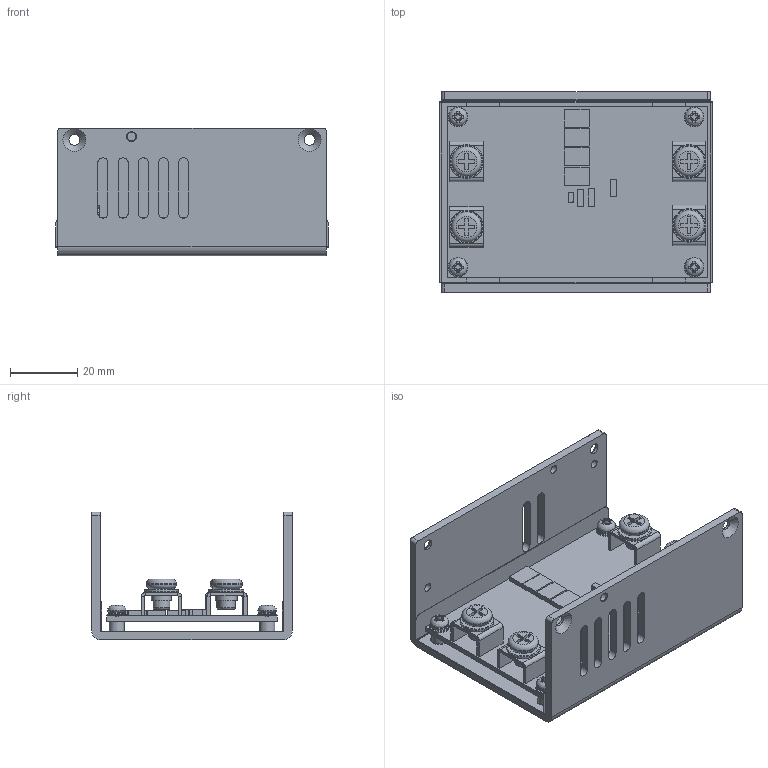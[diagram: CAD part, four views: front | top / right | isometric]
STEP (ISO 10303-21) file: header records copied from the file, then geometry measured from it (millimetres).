
FILE_DESCRIPTION(/* description */ (''),/* implementation_level */ '2;1');
FILE_NAME(/* name */ 'D:\Inventor\AQF1000 - ORING\ORING.stp',/* time_stamp */ '2024-03-25T15:13:12+08:00',/* author */ ('peter'),/* organization */ (''),/* preprocessor_version */ 'ST-DEVELOPER v15.2',/* originating_system */ 'Autodesk Inventor 2014',/* authorisation */ '');
FILE_SCHEMA (('AUTOMOTIVE_DESIGN { 1 0 10303 214 3 1 1 }'));
Length unit declared in the file: millimetre
Products named in the file (10): BOT CASE; M3 x 5R5 mm; MYLAR - BOT CASE; PCB; PCB-50_M5; SCREW CH_W  M5_8mm; SCREW CH_W  M3_6mm; ORING
Bounding box: 81 x 59.7 x 38 mm (x, y, z)
Volume: 34527 mm3; surface area: 47654.1 mm2
Topology: 35 solids, 35 shells, 647 faces, 2607 edges, 3165 vertices
Faces by surface type: plane 426, cylinder 122, cone 51, torus 44, bspline 4
Full cylindrical faces by diameter (mm): 2.459 x16, 3 x4, 3.1 x4, 3.2 x8, 4 x4, 4.134 x4, 4.5 x4, 5 x8, 5.8 x4, 6 x4, 9 x4, 10 x4
Entity records: 17516 total; most frequent: CARTESIAN_POINT 5013, DIRECTION 2727, LINE 1607, VECTOR 1607, ORIENTED_EDGE 1488, TRIMMED_CURVE 1115, EDGE_CURVE 708, AXIS2_PLACEMENT_3D 560
